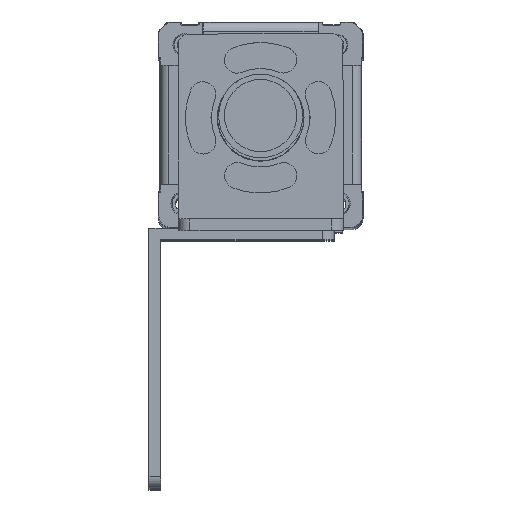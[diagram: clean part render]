
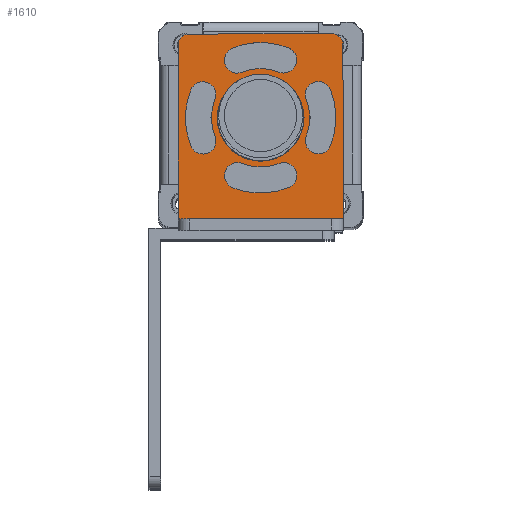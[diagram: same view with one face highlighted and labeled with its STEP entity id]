
A CAD part, top view. The second image highlights one B-rep face of the part: STEP entity #1610.
In plain terms, the highlighted planar face has unit normal (0, 0, 1).
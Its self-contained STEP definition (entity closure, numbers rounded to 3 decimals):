
#470=FACE_BOUND('',#3095,.T.);
#471=FACE_BOUND('',#3096,.T.);
#472=FACE_BOUND('',#3097,.T.);
#473=FACE_BOUND('',#3098,.T.);
#474=FACE_BOUND('',#3099,.T.);
#475=FACE_BOUND('',#3100,.T.);
#1046=CIRCLE('',#12267,7.5);
#1047=CIRCLE('',#12269,7.5);
#1048=CIRCLE('',#12271,2.);
#1049=CIRCLE('',#12272,2.);
#1050=CIRCLE('',#12273,8.5);
#1051=CIRCLE('',#12274,2.25);
#1052=CIRCLE('',#12275,13.);
#1053=CIRCLE('',#12276,2.25);
#1054=CIRCLE('',#12277,13.);
#1055=CIRCLE('',#12278,2.25);
#1056=CIRCLE('',#12279,8.5);
#1057=CIRCLE('',#12280,2.25);
#1058=CIRCLE('',#12281,13.);
#1059=CIRCLE('',#12282,2.25);
#1060=CIRCLE('',#12283,8.5);
#1061=CIRCLE('',#12284,2.25);
#1062=CIRCLE('',#12285,13.);
#1063=CIRCLE('',#12286,2.25);
#1064=CIRCLE('',#12287,8.5);
#1065=CIRCLE('',#12288,2.25);
#1610=ADVANCED_FACE('',(#470,#471,#472,#473,#474,#475),#1961,.T.);
#1961=PLANE('',#12289);
#3095=EDGE_LOOP('',(#6187,#6188,#6189,#6190,#6191,#6192));
#3096=EDGE_LOOP('',(#6193,#6194));
#3097=EDGE_LOOP('',(#6195,#6196,#6197,#6198));
#3098=EDGE_LOOP('',(#6199,#6200,#6201,#6202));
#3099=EDGE_LOOP('',(#6203,#6204,#6205,#6206));
#3100=EDGE_LOOP('',(#6207,#6208,#6209,#6210));
#6187=ORIENTED_EDGE('',*,*,#8998,.T.);
#6188=ORIENTED_EDGE('',*,*,#8999,.T.);
#6189=ORIENTED_EDGE('',*,*,#9000,.T.);
#6190=ORIENTED_EDGE('',*,*,#9001,.F.);
#6191=ORIENTED_EDGE('',*,*,#9002,.T.);
#6192=ORIENTED_EDGE('',*,*,#9003,.T.);
#6193=ORIENTED_EDGE('',*,*,#8997,.F.);
#6194=ORIENTED_EDGE('',*,*,#8995,.F.);
#6195=ORIENTED_EDGE('',*,*,#9004,.F.);
#6196=ORIENTED_EDGE('',*,*,#9005,.F.);
#6197=ORIENTED_EDGE('',*,*,#9006,.F.);
#6198=ORIENTED_EDGE('',*,*,#9007,.F.);
#6199=ORIENTED_EDGE('',*,*,#9008,.F.);
#6200=ORIENTED_EDGE('',*,*,#9009,.F.);
#6201=ORIENTED_EDGE('',*,*,#9010,.F.);
#6202=ORIENTED_EDGE('',*,*,#9011,.F.);
#6203=ORIENTED_EDGE('',*,*,#9012,.F.);
#6204=ORIENTED_EDGE('',*,*,#9013,.F.);
#6205=ORIENTED_EDGE('',*,*,#9014,.F.);
#6206=ORIENTED_EDGE('',*,*,#9015,.F.);
#6207=ORIENTED_EDGE('',*,*,#9016,.F.);
#6208=ORIENTED_EDGE('',*,*,#9017,.F.);
#6209=ORIENTED_EDGE('',*,*,#9018,.F.);
#6210=ORIENTED_EDGE('',*,*,#9019,.F.);
#7415=VERTEX_POINT('',#18750);
#7416=VERTEX_POINT('',#18752);
#7417=VERTEX_POINT('',#18758);
#7418=VERTEX_POINT('',#18759);
#7419=VERTEX_POINT('',#18761);
#7420=VERTEX_POINT('',#18763);
#7421=VERTEX_POINT('',#18765);
#7422=VERTEX_POINT('',#18767);
#7423=VERTEX_POINT('',#18770);
#7424=VERTEX_POINT('',#18771);
#7425=VERTEX_POINT('',#18773);
#7426=VERTEX_POINT('',#18775);
#7427=VERTEX_POINT('',#18778);
#7428=VERTEX_POINT('',#18779);
#7429=VERTEX_POINT('',#18781);
#7430=VERTEX_POINT('',#18783);
#7431=VERTEX_POINT('',#18786);
#7432=VERTEX_POINT('',#18787);
#7433=VERTEX_POINT('',#18789);
#7434=VERTEX_POINT('',#18791);
#7435=VERTEX_POINT('',#18794);
#7436=VERTEX_POINT('',#18795);
#7437=VERTEX_POINT('',#18797);
#7438=VERTEX_POINT('',#18799);
#8995=EDGE_CURVE('',#7415,#7416,#1046,.T.);
#8997=EDGE_CURVE('',#7416,#7415,#1047,.T.);
#8998=EDGE_CURVE('',#7417,#7418,#10119,.T.);
#8999=EDGE_CURVE('',#7418,#7419,#1048,.T.);
#9000=EDGE_CURVE('',#7419,#7420,#10120,.T.);
#9001=EDGE_CURVE('',#7421,#7420,#10121,.T.);
#9002=EDGE_CURVE('',#7421,#7422,#10122,.T.);
#9003=EDGE_CURVE('',#7422,#7417,#1049,.T.);
#9004=EDGE_CURVE('',#7423,#7424,#1050,.T.);
#9005=EDGE_CURVE('',#7425,#7423,#1051,.T.);
#9006=EDGE_CURVE('',#7426,#7425,#1052,.T.);
#9007=EDGE_CURVE('',#7424,#7426,#1053,.T.);
#9008=EDGE_CURVE('',#7427,#7428,#1054,.T.);
#9009=EDGE_CURVE('',#7429,#7427,#1055,.T.);
#9010=EDGE_CURVE('',#7430,#7429,#1056,.T.);
#9011=EDGE_CURVE('',#7428,#7430,#1057,.T.);
#9012=EDGE_CURVE('',#7431,#7432,#1058,.T.);
#9013=EDGE_CURVE('',#7433,#7431,#1059,.T.);
#9014=EDGE_CURVE('',#7434,#7433,#1060,.T.);
#9015=EDGE_CURVE('',#7432,#7434,#1061,.T.);
#9016=EDGE_CURVE('',#7435,#7436,#1062,.T.);
#9017=EDGE_CURVE('',#7437,#7435,#1063,.T.);
#9018=EDGE_CURVE('',#7438,#7437,#1064,.T.);
#9019=EDGE_CURVE('',#7436,#7438,#1065,.T.);
#10119=LINE('',#18757,#11206);
#10120=LINE('',#18762,#11207);
#10121=LINE('',#18764,#11208);
#10122=LINE('',#18766,#11209);
#11206=VECTOR('',#15419,1.);
#11207=VECTOR('',#15422,1.);
#11208=VECTOR('',#15423,1.);
#11209=VECTOR('',#15424,1.);
#12267=AXIS2_PLACEMENT_3D('',#18751,#15410,#15411);
#12269=AXIS2_PLACEMENT_3D('',#18755,#15415,#15416);
#12271=AXIS2_PLACEMENT_3D('',#18760,#15420,#15421);
#12272=AXIS2_PLACEMENT_3D('',#18768,#15425,#15426);
#12273=AXIS2_PLACEMENT_3D('',#18769,#15427,#15428);
#12274=AXIS2_PLACEMENT_3D('',#18772,#15429,#15430);
#12275=AXIS2_PLACEMENT_3D('',#18774,#15431,#15432);
#12276=AXIS2_PLACEMENT_3D('',#18776,#15433,#15434);
#12277=AXIS2_PLACEMENT_3D('',#18777,#15435,#15436);
#12278=AXIS2_PLACEMENT_3D('',#18780,#15437,#15438);
#12279=AXIS2_PLACEMENT_3D('',#18782,#15439,#15440);
#12280=AXIS2_PLACEMENT_3D('',#18784,#15441,#15442);
#12281=AXIS2_PLACEMENT_3D('',#18785,#15443,#15444);
#12282=AXIS2_PLACEMENT_3D('',#18788,#15445,#15446);
#12283=AXIS2_PLACEMENT_3D('',#18790,#15447,#15448);
#12284=AXIS2_PLACEMENT_3D('',#18792,#15449,#15450);
#12285=AXIS2_PLACEMENT_3D('',#18793,#15451,#15452);
#12286=AXIS2_PLACEMENT_3D('',#18796,#15453,#15454);
#12287=AXIS2_PLACEMENT_3D('',#18798,#15455,#15456);
#12288=AXIS2_PLACEMENT_3D('',#18800,#15457,#15458);
#12289=AXIS2_PLACEMENT_3D('',#18801,#15459,#15460);
#15410=DIRECTION('',(0.,0.,1.));
#15411=DIRECTION('',(-1.,-0.002,0.));
#15415=DIRECTION('',(0.,0.,1.));
#15416=DIRECTION('',(1.,0.002,0.));
#15419=DIRECTION('',(-1.,-0.002,0.));
#15420=DIRECTION('',(0.,0.,1.));
#15421=DIRECTION('',(-0.002,1.,0.));
#15422=DIRECTION('',(0.002,-1.,0.));
#15423=DIRECTION('',(-1.,-0.002,0.));
#15424=DIRECTION('',(-0.002,1.,0.));
#15425=DIRECTION('',(0.,0.,1.));
#15426=DIRECTION('',(1.,0.002,0.));
#15427=DIRECTION('',(0.,0.,-1.));
#15428=DIRECTION('',(0.928,0.374,0.));
#15429=DIRECTION('',(0.,0.,1.));
#15430=DIRECTION('',(0.928,0.374,0.));
#15431=DIRECTION('',(0.,0.,1.));
#15432=DIRECTION('',(0.929,-0.371,0.));
#15433=DIRECTION('',(0.,0.,1.));
#15434=DIRECTION('',(-0.929,0.371,0.));
#15435=DIRECTION('',(0.,0.,1.));
#15436=DIRECTION('',(-0.929,0.371,0.));
#15437=DIRECTION('',(0.,0.,1.));
#15438=DIRECTION('',(0.929,-0.371,0.));
#15439=DIRECTION('',(0.,0.,-1.));
#15440=DIRECTION('',(-0.928,-0.374,0.));
#15441=DIRECTION('',(0.,0.,1.));
#15442=DIRECTION('',(-0.928,-0.374,0.));
#15443=DIRECTION('',(0.,0.,1.));
#15444=DIRECTION('',(-0.371,-0.929,0.));
#15445=DIRECTION('',(0.,0.,1.));
#15446=DIRECTION('',(0.371,0.929,0.));
#15447=DIRECTION('',(0.,0.,-1.));
#15448=DIRECTION('',(0.374,-0.928,0.));
#15449=DIRECTION('',(0.,0.,1.));
#15450=DIRECTION('',(0.374,-0.928,0.));
#15451=DIRECTION('',(0.,0.,1.));
#15452=DIRECTION('',(0.371,0.929,0.));
#15453=DIRECTION('',(0.,0.,1.));
#15454=DIRECTION('',(-0.371,-0.929,0.));
#15455=DIRECTION('',(0.,0.,-1.));
#15456=DIRECTION('',(-0.374,0.928,0.));
#15457=DIRECTION('',(0.,0.,1.));
#15458=DIRECTION('',(-0.374,0.928,0.));
#15459=DIRECTION('',(0.,0.,1.));
#15460=DIRECTION('',(-1.,-0.002,0.));
#18750=CARTESIAN_POINT('',(243.846,-38.579,283.445));
#18751=CARTESIAN_POINT('',(251.346,-38.566,283.445));
#18752=CARTESIAN_POINT('',(258.846,-38.553,283.445));
#18755=CARTESIAN_POINT('',(251.346,-38.566,283.445));
#18757=CARTESIAN_POINT('',(263.572,-24.045,283.445));
#18758=CARTESIAN_POINT('',(263.572,-24.045,283.445));
#18759=CARTESIAN_POINT('',(239.072,-24.087,283.445));
#18760=CARTESIAN_POINT('',(239.075,-26.087,283.445));
#18761=CARTESIAN_POINT('',(237.075,-26.09,283.445));
#18762=CARTESIAN_POINT('',(237.075,-26.09,283.445));
#18763=CARTESIAN_POINT('',(237.126,-56.09,283.445));
#18764=CARTESIAN_POINT('',(265.626,-56.042,283.445));
#18765=CARTESIAN_POINT('',(265.626,-56.042,283.445));
#18766=CARTESIAN_POINT('',(265.626,-56.042,283.445));
#18767=CARTESIAN_POINT('',(265.575,-26.042,283.445));
#18768=CARTESIAN_POINT('',(263.575,-26.045,283.445));
#18769=CARTESIAN_POINT('',(251.346,-38.566,283.445));
#18770=CARTESIAN_POINT('',(259.231,-35.39,283.445));
#18771=CARTESIAN_POINT('',(259.241,-41.715,283.445));
#18772=CARTESIAN_POINT('',(261.318,-34.549,283.445));
#18773=CARTESIAN_POINT('',(263.405,-33.708,283.445));
#18774=CARTESIAN_POINT('',(251.346,-38.566,283.445));
#18775=CARTESIAN_POINT('',(263.421,-43.383,283.445));
#18776=CARTESIAN_POINT('',(261.331,-42.549,283.445));
#18777=CARTESIAN_POINT('',(251.346,-38.566,283.445));
#18778=CARTESIAN_POINT('',(239.272,-33.749,283.445));
#18779=CARTESIAN_POINT('',(239.288,-43.423,283.445));
#18780=CARTESIAN_POINT('',(241.362,-34.583,283.445));
#18781=CARTESIAN_POINT('',(243.451,-35.416,283.445));
#18782=CARTESIAN_POINT('',(251.346,-38.566,283.445));
#18783=CARTESIAN_POINT('',(243.462,-41.742,283.445));
#18784=CARTESIAN_POINT('',(241.375,-42.583,283.445));
#18785=CARTESIAN_POINT('',(251.346,-38.566,283.445));
#18786=CARTESIAN_POINT('',(246.529,-50.641,283.445));
#18787=CARTESIAN_POINT('',(256.204,-50.624,283.445));
#18788=CARTESIAN_POINT('',(247.363,-48.551,283.445));
#18789=CARTESIAN_POINT('',(248.197,-46.461,283.445));
#18790=CARTESIAN_POINT('',(251.346,-38.566,283.445));
#18791=CARTESIAN_POINT('',(254.522,-46.45,283.445));
#18792=CARTESIAN_POINT('',(255.363,-48.537,283.445));
#18793=CARTESIAN_POINT('',(251.346,-38.566,283.445));
#18794=CARTESIAN_POINT('',(256.163,-26.491,283.445));
#18795=CARTESIAN_POINT('',(246.489,-26.508,283.445));
#18796=CARTESIAN_POINT('',(255.33,-28.581,283.445));
#18797=CARTESIAN_POINT('',(254.496,-30.671,283.445));
#18798=CARTESIAN_POINT('',(251.346,-38.566,283.445));
#18799=CARTESIAN_POINT('',(248.17,-30.682,283.445));
#18800=CARTESIAN_POINT('',(247.33,-28.595,283.445));
#18801=CARTESIAN_POINT('',(251.346,-38.566,283.445));
